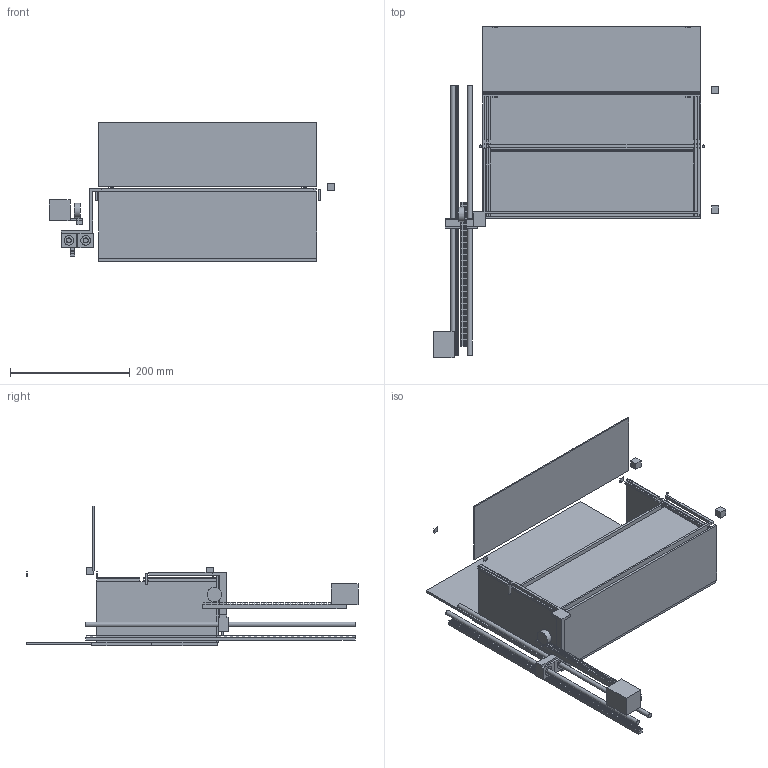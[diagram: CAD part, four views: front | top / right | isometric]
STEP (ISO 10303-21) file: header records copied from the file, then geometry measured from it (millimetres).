
FILE_DESCRIPTION(('FreeCAD Model'),'2;1');
FILE_NAME('Open CASCADE Shape Model','2026-10-19T11:24:44',('FreeCAD'),( 'FreeCAD'),'Open CASCADE STEP processor 7.8','FreeCAD','Unknown');
FILE_SCHEMA(('AUTOMOTIVE_DESIGN { 1 0 10303 214 1 1 1 1 }'));
Length unit declared in the file: millimetre
Products named in the file (1): Open CASCADE STEP translator 7.8 10
Bounding box: 477.5 x 555 x 234 mm (x, y, z)
Volume: 4920950.3 mm3; surface area: 933339.7 mm2
Topology: 29 solids, 29 shells, 1393 faces, 4002 edges, 2668 vertices
Faces by surface type: plane 1382, cylinder 11
Full cylindrical faces by diameter (mm): 4 x2, 8 x2, 8.5 x2, 16 x4, 24 x1
Entity records: 44608 total; most frequent: CARTESIAN_POINT 8064, ORIENTED_EDGE 8004, DIRECTION 6812, EDGE_CURVE 4002, LINE 3980, VECTOR 3980, VERTEX_POINT 2668, AXIS2_PLACEMENT_3D 1416
